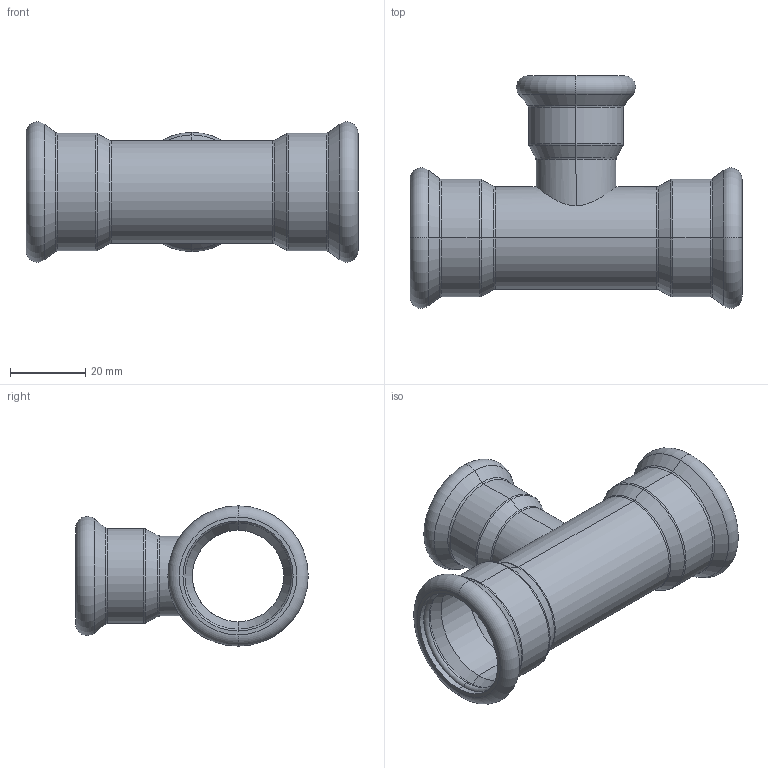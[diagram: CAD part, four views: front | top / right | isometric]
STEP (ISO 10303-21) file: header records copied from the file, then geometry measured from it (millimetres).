
FILE_DESCRIPTION (( 'STEP AP214' ), '1' );
FILE_NAME ('T28220R.STEP', '2025-08-18T00:45:50', ( '' ), ( '' ), 'SwSTEP 2.0', 'SolidWorks 2020', '' );
FILE_SCHEMA (( 'AUTOMOTIVE_DESIGN' ));
Length unit declared in the file: millimetre
Products named in the file (1): T28220R
Bounding box: 88 x 61.6 x 37.2 mm (x, y, z)
Volume: 16859.7 mm3; surface area: 23471.9 mm2
Topology: 4 solids, 4 shells, 98 faces, 198 edges, 106 vertices
Faces by surface type: torus 42, cylinder 26, cone 24, plane 6
Entity records: 3895 total; most frequent: CARTESIAN_POINT 605, DIRECTION 536, ORIENTED_EDGE 396, AXIS2_PLACEMENT_3D 243, EDGE_CURVE 198, CIRCLE 144, VERTEX_POINT 106, EDGE_LOOP 106
